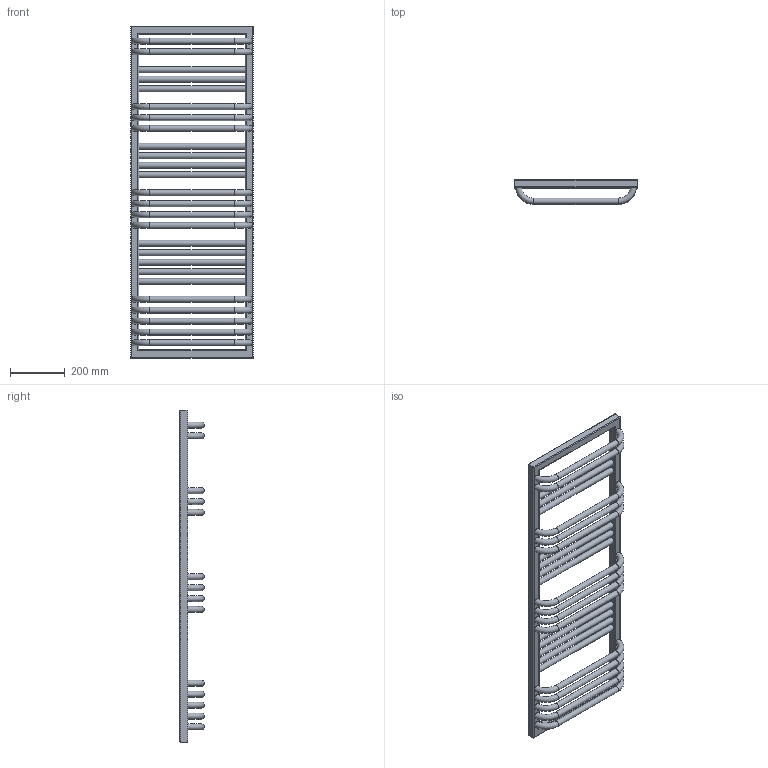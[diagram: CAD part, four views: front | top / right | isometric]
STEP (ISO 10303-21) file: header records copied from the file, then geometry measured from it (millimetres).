
FILE_DESCRIPTION((''),'2;1');
FILE_NAME('Z:\R\G\P\RGPH18 - Grzejnik POC\Work\Inventor\POC 1-6-8 v2.0\Marketing\AutoCad 3D\POC-1215-450-1-6-8.stp','2012-07-12T14:39:31',('KurKa'),(''),'Autodesk Inventor 2012','Autodesk Inventor 2012','');
FILE_SCHEMA(('AUTOMOTIVE_DESIGN { 1 0 10303 214 1 1 1 1 }'));
Length unit declared in the file: millimetre
Products named in the file (1): POC-1215-450-1-6-8
Bounding box: 450 x 90 x 1215 mm (x, y, z)
Volume: 7145326.2 mm3; surface area: 1130124.1 mm2
Topology: 1 solids, 1 shells, 89 faces, 233 edges, 149 vertices
Faces by surface type: cylinder 45, torus 31, plane 13
Full cylindrical faces by diameter (mm): 18.631 x3, 22 x26
Entity records: 4078 total; most frequent: CARTESIAN_POINT 2176, DIRECTION 374, ORIENTED_EDGE 290, EDGE_LOOP 206, AXIS2_PLACEMENT_3D 167, EDGE_CURVE 145, VERTEX_POINT 121, FACE_BOUND 117
